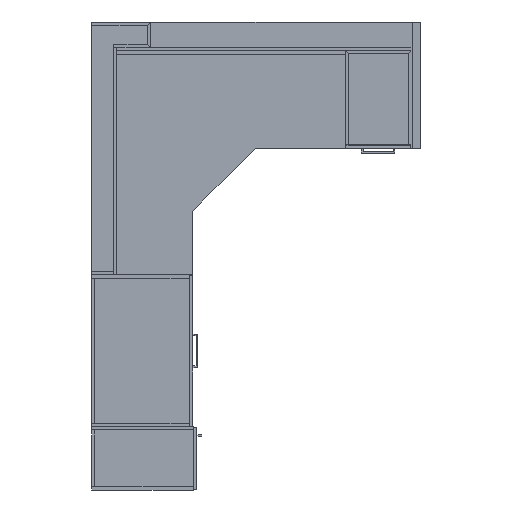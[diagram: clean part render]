
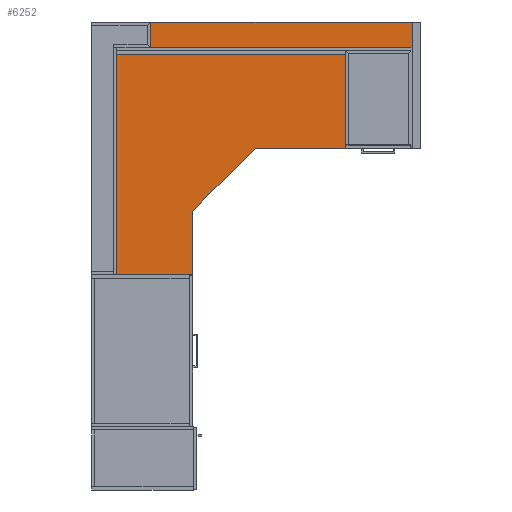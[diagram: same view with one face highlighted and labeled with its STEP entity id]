
A CAD part, front view. The second image highlights one B-rep face of the part: STEP entity #6252.
In plain terms, the highlighted planar face has unit normal (0, -1, 0).
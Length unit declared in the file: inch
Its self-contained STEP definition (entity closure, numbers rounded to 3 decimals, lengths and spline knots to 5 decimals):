
#1270=FACE_BOUND('',#1951,.T.);
#1271=FACE_BOUND('',#1952,.T.);
#1288=PLANE('',#7039);
#1617=FACE_OUTER_BOUND('',#1950,.T.);
#1950=EDGE_LOOP('',(#4885,#4886,#4887,#4888,#4889,#4890,#4891));
#1951=EDGE_LOOP('',(#4892));
#1952=EDGE_LOOP('',(#4893));
#2283=LINE('',#9015,#2974);
#2289=LINE('',#9026,#2980);
#2290=LINE('',#9029,#2981);
#2293=LINE('',#9035,#2984);
#2296=LINE('',#9042,#2987);
#2300=LINE('',#9049,#2991);
#2302=LINE('',#9052,#2993);
#2974=VECTOR('',#7472,0.3937);
#2980=VECTOR('',#7480,0.3937);
#2981=VECTOR('',#7483,0.3937);
#2984=VECTOR('',#7488,0.3937);
#2987=VECTOR('',#7493,0.3937);
#2991=VECTOR('',#7499,0.3937);
#2993=VECTOR('',#7503,0.3937);
#3664=CIRCLE('',#7027,0.95);
#3666=CIRCLE('',#7030,0.95);
#3676=VERTEX_POINT('',#9003);
#3678=VERTEX_POINT('',#9009);
#3679=VERTEX_POINT('',#9013);
#3680=VERTEX_POINT('',#9014);
#3684=VERTEX_POINT('',#9024);
#3685=VERTEX_POINT('',#9028);
#3687=VERTEX_POINT('',#9034);
#3689=VERTEX_POINT('',#9040);
#3690=VERTEX_POINT('',#9041);
#4143=EDGE_CURVE('',#3676,#3676,#3664,.T.);
#4146=EDGE_CURVE('',#3678,#3678,#3666,.T.);
#4147=EDGE_CURVE('',#3679,#3680,#2283,.T.);
#4153=EDGE_CURVE('',#3684,#3680,#2289,.T.);
#4154=EDGE_CURVE('',#3685,#3679,#2290,.T.);
#4157=EDGE_CURVE('',#3687,#3685,#2293,.T.);
#4160=EDGE_CURVE('',#3689,#3690,#2296,.T.);
#4164=EDGE_CURVE('',#3689,#3687,#2300,.T.);
#4166=EDGE_CURVE('',#3690,#3684,#2302,.T.);
#4885=ORIENTED_EDGE('',*,*,#4166,.F.);
#4886=ORIENTED_EDGE('',*,*,#4160,.F.);
#4887=ORIENTED_EDGE('',*,*,#4164,.T.);
#4888=ORIENTED_EDGE('',*,*,#4157,.T.);
#4889=ORIENTED_EDGE('',*,*,#4154,.T.);
#4890=ORIENTED_EDGE('',*,*,#4147,.T.);
#4891=ORIENTED_EDGE('',*,*,#4153,.F.);
#4892=ORIENTED_EDGE('',*,*,#4143,.T.);
#4893=ORIENTED_EDGE('',*,*,#4146,.T.);
#6252=ADVANCED_FACE('',(#1617,#1270,#1271),#1288,.F.);
#7027=AXIS2_PLACEMENT_3D('',#9005,#7461,#7462);
#7030=AXIS2_PLACEMENT_3D('',#9011,#7468,#7469);
#7039=AXIS2_PLACEMENT_3D('',#9055,#7507,#7508);
#7461=DIRECTION('center_axis',(0.,1.,0.));
#7462=DIRECTION('ref_axis',(1.,0.,0.));
#7468=DIRECTION('center_axis',(0.,1.,0.));
#7469=DIRECTION('ref_axis',(1.,0.,0.));
#7472=DIRECTION('',(0.707,0.,0.707));
#7480=DIRECTION('',(-1.,0.,0.));
#7483=DIRECTION('',(0.,0.,1.));
#7488=DIRECTION('',(1.,0.,0.));
#7493=DIRECTION('',(1.,0.,0.));
#7499=DIRECTION('',(0.,0.,-1.));
#7503=DIRECTION('',(0.,0.,-1.));
#7507=DIRECTION('center_axis',(0.,1.,0.));
#7508=DIRECTION('ref_axis',(0.,0.,1.));
#9003=CARTESIAN_POINT('',(2.05,0.,-12.));
#9005=CARTESIAN_POINT('Origin',(3.,0.,-12.));
#9009=CARTESIAN_POINT('',(2.05,0.,-48.));
#9011=CARTESIAN_POINT('Origin',(3.,0.,-48.));
#9013=CARTESIAN_POINT('',(24.,0.,-44.84924));
#9014=CARTESIAN_POINT('',(38.84924,0.,-30.));
#9015=CARTESIAN_POINT('',(27.71231,0.,-41.13693));
#9024=CARTESIAN_POINT('',(78.,0.,-30.));
#9026=CARTESIAN_POINT('',(78.,0.,-30.));
#9028=CARTESIAN_POINT('',(24.,0.,-60.));
#9029=CARTESIAN_POINT('',(24.,0.,-52.5));
#9034=CARTESIAN_POINT('',(0.,0.,-60.));
#9035=CARTESIAN_POINT('',(6.,0.,-60.));
#9040=CARTESIAN_POINT('',(0.,0.,0.));
#9041=CARTESIAN_POINT('',(78.,0.,0.));
#9042=CARTESIAN_POINT('',(0.,0.,0.));
#9049=CARTESIAN_POINT('',(0.,0.,-37.5));
#9052=CARTESIAN_POINT('',(78.,0.,0.));
#9055=CARTESIAN_POINT('Origin',(39.,0.,-15.));
